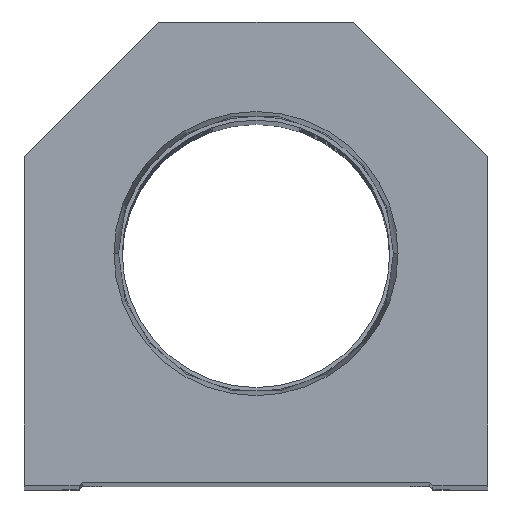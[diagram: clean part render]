
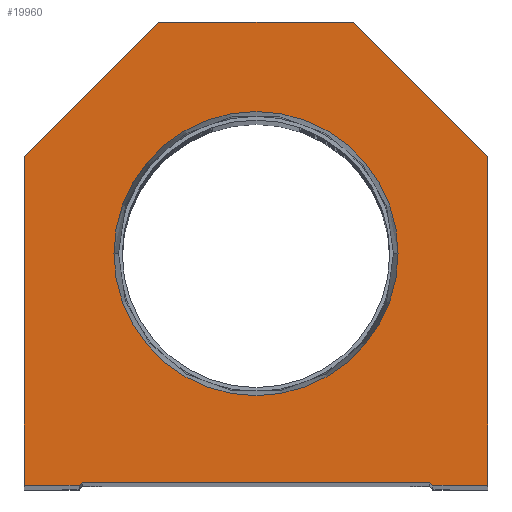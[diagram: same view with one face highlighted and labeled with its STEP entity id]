
A CAD part, top view. The second image highlights one B-rep face of the part: STEP entity #19960.
In plain terms, the highlighted planar face has unit normal (0, 0, 1).
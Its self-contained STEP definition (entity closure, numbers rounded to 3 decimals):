
#7 = EDGE_CURVE ( 'NONE', #15613, #13270, #4457, .T. ) ;
#117 = ORIENTED_EDGE ( 'NONE', *, *, #3356, .T. ) ;
#553 = DIRECTION ( 'NONE',  ( 1., 0., 0. ) ) ;
#668 = DIRECTION ( 'NONE',  ( 0., 1., 0. ) ) ;
#933 = ORIENTED_EDGE ( 'NONE', *, *, #15639, .T. ) ;
#957 = ORIENTED_EDGE ( 'NONE', *, *, #7981, .T. ) ;
#1035 = EDGE_CURVE ( 'NONE', #8298, #2550, #19036, .T. ) ;
#1193 = CARTESIAN_POINT ( 'NONE',  ( 14.55, 14.55, 0. ) ) ;
#1285 = CARTESIAN_POINT ( 'NONE',  ( 28.6, 0., 0. ) ) ;
#1378 = LINE ( 'NONE', #7829, #15557 ) ;
#1894 = CARTESIAN_POINT ( 'NONE',  ( -23.374, 38.1, 0. ) ) ;
#2056 = ORIENTED_EDGE ( 'NONE', *, *, #7, .T. ) ;
#2061 = DIRECTION ( 'NONE',  ( 1., 0., 0. ) ) ;
#2207 = CIRCLE ( 'NONE', #4517, 23.374 ) ;
#2550 = VERTEX_POINT ( 'NONE', #14324 ) ;
#2675 = DIRECTION ( 'NONE',  ( -0.707, 0.707, 0. ) ) ;
#2772 = VERTEX_POINT ( 'NONE', #13109 ) ;
#3261 = DIRECTION ( 'NONE',  ( 0., -1., 0. ) ) ;
#3293 = DIRECTION ( 'NONE',  ( -0.707, -0.707, 0. ) ) ;
#3328 = VERTEX_POINT ( 'NONE', #4381 ) ;
#3356 = EDGE_CURVE ( 'NONE', #2772, #8298, #11152, .T. ) ;
#3424 = DIRECTION ( 'NONE',  ( 1., 0., 0. ) ) ;
#3449 = VECTOR ( 'NONE', #13995, 1000. ) ;
#3513 = VERTEX_POINT ( 'NONE', #1894 ) ;
#3721 = DIRECTION ( 'NONE',  ( 0., 0., 1. ) ) ;
#3886 = CARTESIAN_POINT ( 'NONE',  ( 16., 76.2, 0. ) ) ;
#4165 = VECTOR ( 'NONE', #17517, 1000. ) ;
#4305 = CARTESIAN_POINT ( 'NONE',  ( 38.1, 54.1, 0. ) ) ;
#4381 = CARTESIAN_POINT ( 'NONE',  ( -38.1, 54.1, 0. ) ) ;
#4457 = LINE ( 'NONE', #10912, #10139 ) ;
#4517 = AXIS2_PLACEMENT_3D ( 'NONE', #12882, #12462, #12684 ) ;
#4873 = LINE ( 'NONE', #19418, #17034 ) ;
#5399 = CARTESIAN_POINT ( 'NONE',  ( 29.1, 0., 0. ) ) ;
#5760 = CIRCLE ( 'NONE', #17247, 23.374 ) ;
#5832 = LINE ( 'NONE', #1193, #16710 ) ;
#5838 = VECTOR ( 'NONE', #553, 1000. ) ;
#5941 = AXIS2_PLACEMENT_3D ( 'NONE', #18143, #3721, #2061 ) ;
#6390 = EDGE_CURVE ( 'NONE', #13270, #8049, #1378, .T. ) ;
#7299 = VERTEX_POINT ( 'NONE', #5399 ) ;
#7312 = CARTESIAN_POINT ( 'NONE',  ( 38.1, 0., 0. ) ) ;
#7829 = CARTESIAN_POINT ( 'NONE',  ( 16., 76.2, 0. ) ) ;
#7981 = EDGE_CURVE ( 'NONE', #10475, #15613, #18666, .T. ) ;
#8049 = VERTEX_POINT ( 'NONE', #14250 ) ;
#8153 = EDGE_CURVE ( 'NONE', #8049, #3328, #4873, .T. ) ;
#8298 = VERTEX_POINT ( 'NONE', #17349 ) ;
#9060 = EDGE_CURVE ( 'NONE', #9696, #7299, #5832, .T. ) ;
#9142 = VECTOR ( 'NONE', #3424, 1000. ) ;
#9184 = ORIENTED_EDGE ( 'NONE', *, *, #13863, .F. ) ;
#9450 = CARTESIAN_POINT ( 'NONE',  ( -14.55, 14.55, 0. ) ) ;
#9663 = EDGE_CURVE ( 'NONE', #2550, #9696, #12925, .T. ) ;
#9696 = VERTEX_POINT ( 'NONE', #16616 ) ;
#9922 = VECTOR ( 'NONE', #668, 1000. ) ;
#9967 = CARTESIAN_POINT ( 'NONE',  ( 23.374, 38.1, 0. ) ) ;
#10084 = EDGE_LOOP ( 'NONE', ( #117, #19170, #13790, #18055, #14594, #957, #2056, #10385, #20892, #933 ) ) ;
#10139 = VECTOR ( 'NONE', #2675, 1000. ) ;
#10145 = DIRECTION ( 'NONE',  ( 0., 0., 1. ) ) ;
#10284 = FACE_OUTER_BOUND ( 'NONE', #10084, .T. ) ;
#10385 = ORIENTED_EDGE ( 'NONE', *, *, #6390, .T. ) ;
#10475 = VERTEX_POINT ( 'NONE', #14155 ) ;
#10912 = CARTESIAN_POINT ( 'NONE',  ( 38.1, 54.1, 0. ) ) ;
#11152 = LINE ( 'NONE', #12831, #4165 ) ;
#12462 = DIRECTION ( 'NONE',  ( 0., 0., 1. ) ) ;
#12684 = DIRECTION ( 'NONE',  ( 1., 0., 0. ) ) ;
#12831 = CARTESIAN_POINT ( 'NONE',  ( -28.6, 0., 0. ) ) ;
#12882 = CARTESIAN_POINT ( 'NONE',  ( 0., 38.1, 0. ) ) ;
#12910 = VERTEX_POINT ( 'NONE', #9967 ) ;
#12925 = LINE ( 'NONE', #17927, #9142 ) ;
#13109 = CARTESIAN_POINT ( 'NONE',  ( -38.1, 0., 0. ) ) ;
#13270 = VERTEX_POINT ( 'NONE', #3886 ) ;
#13714 = DIRECTION ( 'NONE',  ( 1., 0., 0. ) ) ;
#13790 = ORIENTED_EDGE ( 'NONE', *, *, #9663, .T. ) ;
#13863 = EDGE_CURVE ( 'NONE', #3513, #12910, #5760, .T. ) ;
#13995 = DIRECTION ( 'NONE',  ( 0.707, 0.707, 0. ) ) ;
#14155 = CARTESIAN_POINT ( 'NONE',  ( 38.1, 0., 0. ) ) ;
#14250 = CARTESIAN_POINT ( 'NONE',  ( -16., 76.2, 0. ) ) ;
#14324 = CARTESIAN_POINT ( 'NONE',  ( -28.6, 0.5, 0. ) ) ;
#14594 = ORIENTED_EDGE ( 'NONE', *, *, #17495, .T. ) ;
#15077 = DIRECTION ( 'NONE',  ( -1., 0., 0. ) ) ;
#15205 = FACE_BOUND ( 'NONE', #18948, .T. ) ;
#15557 = VECTOR ( 'NONE', #15077, 1000. ) ;
#15613 = VERTEX_POINT ( 'NONE', #4305 ) ;
#15639 = EDGE_CURVE ( 'NONE', #3328, #2772, #15912, .T. ) ;
#15735 = LINE ( 'NONE', #1285, #5838 ) ;
#15912 = LINE ( 'NONE', #17965, #20088 ) ;
#16616 = CARTESIAN_POINT ( 'NONE',  ( 28.6, 0.5, 0. ) ) ;
#16646 = EDGE_CURVE ( 'NONE', #12910, #3513, #2207, .T. ) ;
#16710 = VECTOR ( 'NONE', #18882, 1000. ) ;
#16783 = ORIENTED_EDGE ( 'NONE', *, *, #16646, .F. ) ;
#17034 = VECTOR ( 'NONE', #3293, 1000. ) ;
#17247 = AXIS2_PLACEMENT_3D ( 'NONE', #19854, #10145, #13714 ) ;
#17349 = CARTESIAN_POINT ( 'NONE',  ( -29.1, 0., 0. ) ) ;
#17495 = EDGE_CURVE ( 'NONE', #7299, #10475, #15735, .T. ) ;
#17517 = DIRECTION ( 'NONE',  ( 1., 0., 0. ) ) ;
#17927 = CARTESIAN_POINT ( 'NONE',  ( -28.6, 0.5, 0. ) ) ;
#17965 = CARTESIAN_POINT ( 'NONE',  ( -38.1, 0., 0. ) ) ;
#18055 = ORIENTED_EDGE ( 'NONE', *, *, #9060, .T. ) ;
#18143 = CARTESIAN_POINT ( 'NONE',  ( 0., 0., 0. ) ) ;
#18240 = PLANE ( 'NONE',  #5941 ) ;
#18666 = LINE ( 'NONE', #7312, #9922 ) ;
#18882 = DIRECTION ( 'NONE',  ( 0.707, -0.707, 0. ) ) ;
#18948 = EDGE_LOOP ( 'NONE', ( #16783, #9184 ) ) ;
#19036 = LINE ( 'NONE', #9450, #3449 ) ;
#19170 = ORIENTED_EDGE ( 'NONE', *, *, #1035, .T. ) ;
#19418 = CARTESIAN_POINT ( 'NONE',  ( -38.1, 54.1, 0. ) ) ;
#19854 = CARTESIAN_POINT ( 'NONE',  ( 0., 38.1, 0. ) ) ;
#19960 = ADVANCED_FACE ( 'NONE', ( #15205, #10284 ), #18240, .T. ) ;
#20088 = VECTOR ( 'NONE', #3261, 1000. ) ;
#20892 = ORIENTED_EDGE ( 'NONE', *, *, #8153, .T. ) ;
